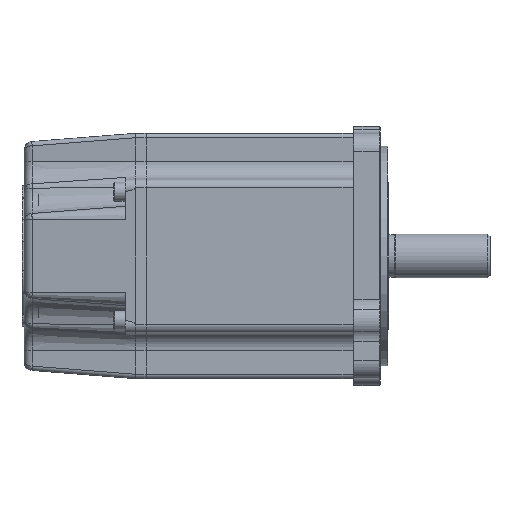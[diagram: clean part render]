
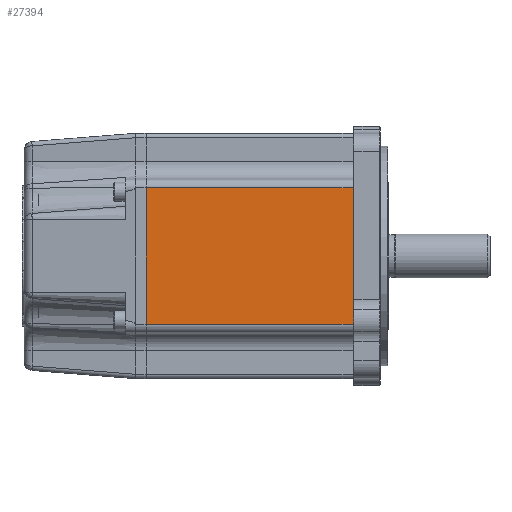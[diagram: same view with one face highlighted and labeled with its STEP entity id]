
A CAD part, front view. The second image highlights one B-rep face of the part: STEP entity #27394.
In plain terms, the highlighted planar face has unit normal (0, -1, 0).
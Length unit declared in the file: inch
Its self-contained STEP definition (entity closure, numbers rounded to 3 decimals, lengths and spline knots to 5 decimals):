
#486 = DIRECTION ( 'NONE',  ( 0., 0., 1. ) ) ;
#489 = DIRECTION ( 'NONE',  ( 1., 0., 0. ) ) ;
#936 = EDGE_CURVE ( 'NONE', #14963, #4693, #47811, .T. ) ;
#1390 = CARTESIAN_POINT ( 'NONE',  ( -0.39, -1.76, -1.76 ) ) ;
#1832 = FACE_OUTER_BOUND ( 'NONE', #43035, .T. ) ;
#2558 = DIRECTION ( 'NONE',  ( 0., 0., 1. ) ) ;
#3581 = CARTESIAN_POINT ( 'NONE',  ( -3.36, -1.76, -0.979 ) ) ;
#4693 = VERTEX_POINT ( 'NONE', #26458 ) ;
#5163 = CARTESIAN_POINT ( 'NONE',  ( -0.39, -1.76, -0.979 ) ) ;
#5882 = DIRECTION ( 'NONE',  ( 0., 0., 1. ) ) ;
#9206 = EDGE_CURVE ( 'NONE', #22581, #16875, #50758, .T. ) ;
#13601 = VECTOR ( 'NONE', #5882, 39.37008 ) ;
#13703 = CARTESIAN_POINT ( 'NONE',  ( -3.36, -1.76, -1.76 ) ) ;
#14963 = VERTEX_POINT ( 'NONE', #5163 ) ;
#16875 = VERTEX_POINT ( 'NONE', #35583 ) ;
#16970 = ORIENTED_EDGE ( 'NONE', *, *, #9206, .F. ) ;
#22581 = VERTEX_POINT ( 'NONE', #3581 ) ;
#23403 = LINE ( 'NONE', #54230, #40852 ) ;
#24167 = AXIS2_PLACEMENT_3D ( 'NONE', #55946, #29256, #2558 ) ;
#26458 = CARTESIAN_POINT ( 'NONE',  ( -0.39, -1.76, 0.979 ) ) ;
#27394 = ADVANCED_FACE ( 'NONE', ( #1832 ), #33559, .F. ) ;
#29256 = DIRECTION ( 'NONE',  ( 0., 1., 0. ) ) ;
#29551 = DIRECTION ( 'NONE',  ( -1., 0., 0. ) ) ;
#33011 = VECTOR ( 'NONE', #29551, 39.37008 ) ;
#33559 = PLANE ( 'NONE',  #24167 ) ;
#35583 = CARTESIAN_POINT ( 'NONE',  ( -3.36, -1.76, 0.979 ) ) ;
#38872 = VECTOR ( 'NONE', #486, 39.37008 ) ;
#39271 = ORIENTED_EDGE ( 'NONE', *, *, #936, .T. ) ;
#40852 = VECTOR ( 'NONE', #489, 39.37008 ) ;
#43035 = EDGE_LOOP ( 'NONE', ( #39271, #48854, #16970, #49004 ) ) ;
#44048 = EDGE_CURVE ( 'NONE', #22581, #14963, #23403, .T. ) ;
#47811 = LINE ( 'NONE', #1390, #13601 ) ;
#48854 = ORIENTED_EDGE ( 'NONE', *, *, #57797, .T. ) ;
#49004 = ORIENTED_EDGE ( 'NONE', *, *, #44048, .T. ) ;
#50758 = LINE ( 'NONE', #13703, #38872 ) ;
#54230 = CARTESIAN_POINT ( 'NONE',  ( -0.39, -1.76, -0.979 ) ) ;
#55946 = CARTESIAN_POINT ( 'NONE',  ( -3.36, -1.76, -1.76 ) ) ;
#56233 = CARTESIAN_POINT ( 'NONE',  ( -3.36, -1.76, 0.979 ) ) ;
#56724 = LINE ( 'NONE', #56233, #33011 ) ;
#57797 = EDGE_CURVE ( 'NONE', #4693, #16875, #56724, .T. ) ;
